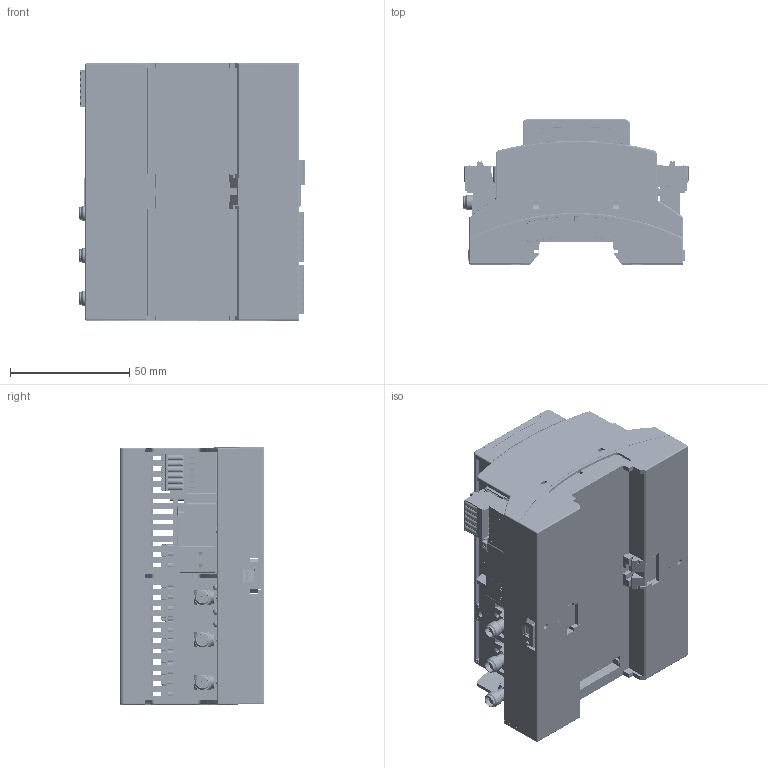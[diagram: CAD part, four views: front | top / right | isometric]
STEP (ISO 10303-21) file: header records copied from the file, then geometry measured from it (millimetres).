
FILE_DESCRIPTION (( 'STEP AP214' ), '1' );
FILE_NAME ('CUA32-MST.STEP', '2017-06-02T13:08:47', ( '' ), ( '' ), 'SwSTEP 2.0', 'SolidWorks 2011', '' );
FILE_SCHEMA (( 'AUTOMOTIVE_DESIGN' ));
Length unit declared in the file: millimetre
Products named in the file (19): 1881367_05; 1881325_05; 1881341_05; 1881383_05; 1912184_02; 7499210123; Led_1142488; 1924525_00; USB-straight; 1881613_00; 1881590_00; 1881558_01; 1881574_00; 7644; 2896173; 2896089; ConnectorPcb; 2896270; CUA32-MST
Assembly tree (33 placements, depth 2):
  CUA32-MST
    Led_1142488  x4
    1881574_00  x2
    USB-straight
    1881367_05  x3
    1881613_00  x3
    2896089
    1881590_00  x3
    1881325_05
    1881341_05  x2
    7644  x3
    1881383_05  x3
    1881558_01
    2896173
    1912184_02
    ConnectorPcb
    7499210123
    2896270
    1924525_00
Bounding box: 94.23 x 60.7 x 107.71 mm (x, y, z)
Volume: 119476.1 mm3; surface area: 152846.9 mm2
Topology: 38 solids, 38 shells, 12509 faces, 33364 edges, 21629 vertices
Faces by surface type: plane 8933, cylinder 3124, cone 354, bspline 86, torus 12
Entity records: 315445 total; most frequent: CARTESIAN_POINT 49923, ORIENTED_EDGE 41414, DIRECTION 38083, EDGE_CURVE 20707, LINE 15903, VECTOR 15903, VERTEX_POINT 13490, AXIS2_PLACEMENT_3D 11090
